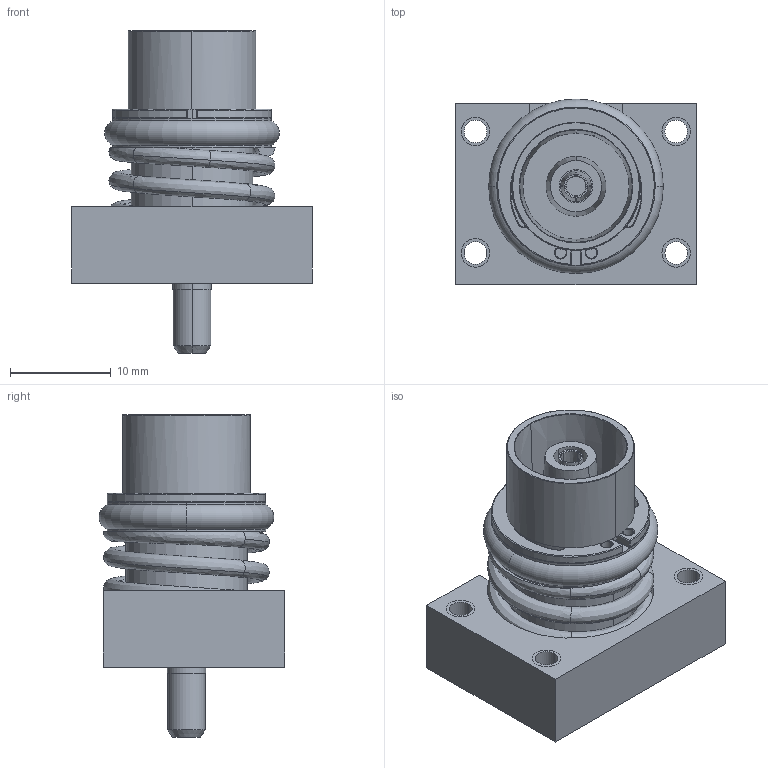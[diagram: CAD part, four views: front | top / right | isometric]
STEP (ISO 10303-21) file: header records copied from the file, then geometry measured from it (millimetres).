
FILE_DESCRIPTION((''),'2;1');
FILE_NAME('L5122_ASM','2019-11-20T18:03:34',('paul.nurczyk'),('Carlisle Interconnect Technologies'),'CREO PARAMETRIC BY PTC INC, 2017260','CREO PARAMETRIC BY PTC INC, 2017260','');
FILE_SCHEMA(('AUTOMOTIVE_DESIGN { 1 0 10303 214 1 1 1 1 }'));
Length unit declared in the file: inch
Products named in the file (1): L5122_ASM
Bounding box: 23.88 x 18.45 x 32.08 mm (x, y, z)
Volume: 4835 mm3; surface area: 5077.2 mm2
Topology: 1 solids, 5 shells, 427 faces, 1156 edges, 740 vertices
Faces by surface type: plane 192, bspline 99, cylinder 76, torus 36, cone 20, sphere 4
Entity records: 20520 total; most frequent: CARTESIAN_POINT 7472, ORIENTED_EDGE 2296, DIRECTION 2030, EDGE_CURVE 1156, AXIS2_PLACEMENT_3D 857, VERTEX_POINT 740, CIRCLE 528, EDGE_LOOP 456
